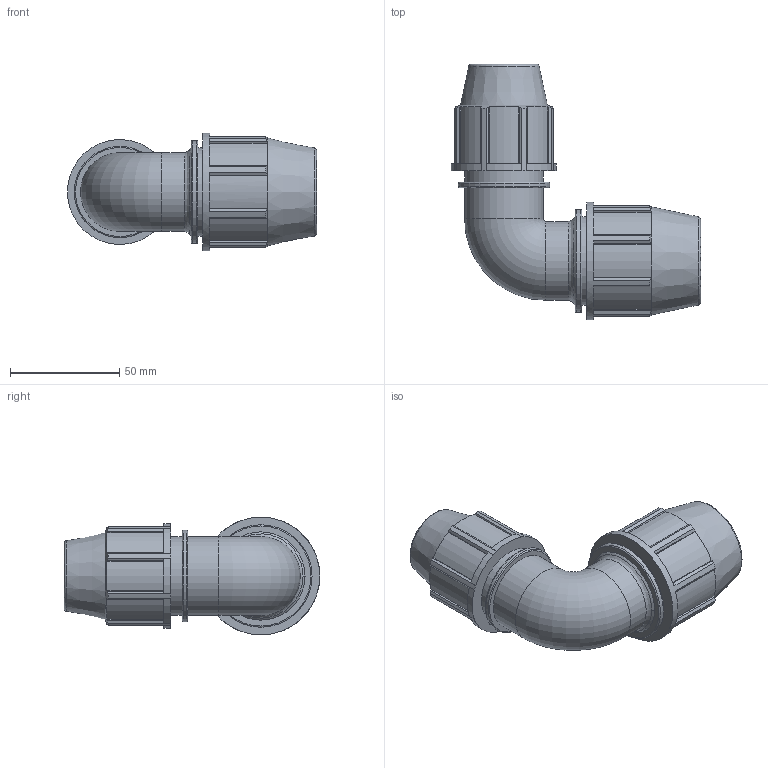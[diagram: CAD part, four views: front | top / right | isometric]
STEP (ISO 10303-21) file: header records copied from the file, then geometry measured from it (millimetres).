
FILE_DESCRIPTION(/* description */ ('PLASSON REDUCING ELBOW 3/4'''' - 1/2'''''),/* implementation_level */ '2;1');
FILE_NAME(/* name */ 'C:\Dropbox\KIMPROJECTS-Inventor 2019\99-16-3568-Processing Inch\ASTM Compression 2021\0751M0\0751M0007005.ipt.stp',/* time_stamp */ '2021-08-26T12:34:13+03:00',/* author */ ('KIM'),/* organization */ (''),/* preprocessor_version */ 'ST-DEVELOPER v17.2',/* originating_system */ 'Autodesk Inventor 2019',/* authorisation */ '');
FILE_SCHEMA (('AUTOMOTIVE_DESIGN { 1 0 10303 214 3 1 1 }'));
Length unit declared in the file: inch
Products named in the file (1): 0751M0007005
Bounding box: 113.92 x 116.84 x 53.85 mm (x, y, z)
Volume: 166686.3 mm3; surface area: 41693.6 mm2
Topology: 1 solids, 1 shells, 152 faces, 441 edges, 300 vertices
Faces by surface type: plane 91, cylinder 42, torus 9, cone 8, bspline 2
Full cylindrical faces by diameter (mm): 21.2 x2, 26.6 x1, 36.005 x3, 40.386 x1, 41.765 x1, 46.848 x1, 53.848 x1
Entity records: 5557 total; most frequent: CARTESIAN_POINT 1251, ORIENTED_EDGE 882, DIRECTION 872, EDGE_CURVE 441, AXIS2_PLACEMENT_3D 315, VERTEX_POINT 300, LINE 242, VECTOR 242
